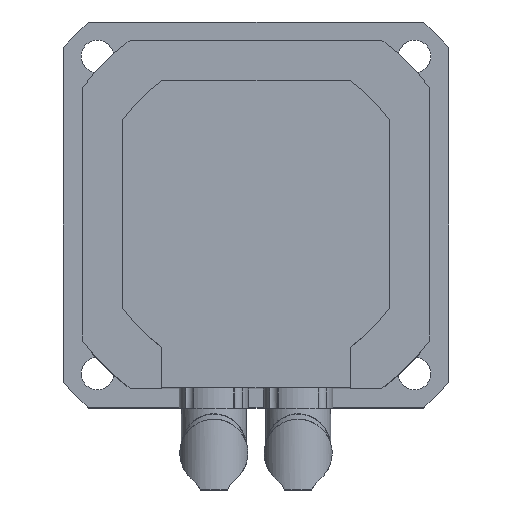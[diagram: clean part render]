
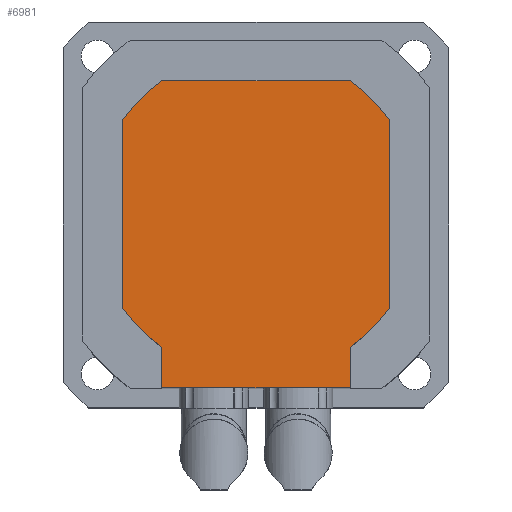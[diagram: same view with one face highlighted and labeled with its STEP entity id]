
A CAD part, top view. The second image highlights one B-rep face of the part: STEP entity #6981.
In plain terms, the highlighted planar face has unit normal (0, 0, 1).
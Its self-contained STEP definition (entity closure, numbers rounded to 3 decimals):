
#3962=CARTESIAN_POINT('',(-49.,-34.627,45.0));
#3963=VERTEX_POINT('',#3962);
#3970=CARTESIAN_POINT('',(-49.,34.627,45.0));
#3971=VERTEX_POINT('',#3970);
#3972=CARTESIAN_POINT('',(-49.,34.627,45.0));
#3973=DIRECTION('',(0.0,-1.0,0.0));
#3974=VECTOR('',#3973,69.253);
#3975=LINE('',#3972,#3974);
#3976=EDGE_CURVE('',#3971,#3963,#3975,.T.);
#4020=CARTESIAN_POINT('',(49.0,34.627,45.0));
#4021=VERTEX_POINT('',#4020);
#4028=CARTESIAN_POINT('',(49.0,-34.627,45.0));
#4029=VERTEX_POINT('',#4028);
#4030=CARTESIAN_POINT('',(49.0,-34.627,45.0));
#4031=DIRECTION('',(0.0,1.0,0.0));
#4032=VECTOR('',#4031,69.253);
#4033=LINE('',#4030,#4032);
#4034=EDGE_CURVE('',#4029,#4021,#4033,.T.);
#6490=CARTESIAN_POINT('',(-34.627,49.0,45.0));
#6491=VERTEX_POINT('',#6490);
#6498=CARTESIAN_POINT('',(34.627,49.0,45.0));
#6499=VERTEX_POINT('',#6498);
#6500=CARTESIAN_POINT('',(34.627,49.0,45.0));
#6501=DIRECTION('',(-1.0,0.0,0.0));
#6502=VECTOR('',#6501,69.253);
#6503=LINE('',#6500,#6502);
#6504=EDGE_CURVE('',#6499,#6491,#6503,.T.);
#6522=CARTESIAN_POINT('',(34.627,-49.0,45.0));
#6523=VERTEX_POINT('',#6522);
#6524=CARTESIAN_POINT('',(0.0,0.0,45.0));
#6525=DIRECTION('',(0.0,0.0,-1.0));
#6526=DIRECTION('',(-1.0,0.0,0.0));
#6527=AXIS2_PLACEMENT_3D('',#6524,#6525,#6526);
#6528=CIRCLE('',#6527,60.0);
#6529=EDGE_CURVE('',#4029,#6523,#6528,.T.);
#6547=CARTESIAN_POINT('',(0.0,0.0,45.0));
#6548=DIRECTION('',(0.0,0.0,-1.0));
#6549=DIRECTION('',(-1.0,0.0,0.0));
#6550=AXIS2_PLACEMENT_3D('',#6547,#6548,#6549);
#6551=CIRCLE('',#6550,60.0);
#6552=EDGE_CURVE('',#6499,#4021,#6551,.T.);
#6565=CARTESIAN_POINT('',(0.0,0.0,45.0));
#6566=DIRECTION('',(0.0,0.0,-1.0));
#6567=DIRECTION('',(-1.0,0.0,0.0));
#6568=AXIS2_PLACEMENT_3D('',#6565,#6566,#6567);
#6569=CIRCLE('',#6568,60.0);
#6570=EDGE_CURVE('',#3971,#6491,#6569,.T.);
#6584=CARTESIAN_POINT('',(-34.627,-49.0,45.0));
#6585=VERTEX_POINT('',#6584);
#6592=CARTESIAN_POINT('',(0.0,0.0,45.0));
#6593=DIRECTION('',(0.0,0.0,-1.0));
#6594=DIRECTION('',(-1.0,0.0,0.0));
#6595=AXIS2_PLACEMENT_3D('',#6592,#6593,#6594);
#6596=CIRCLE('',#6595,60.0);
#6597=EDGE_CURVE('',#6585,#3963,#6596,.T.);
#6641=CARTESIAN_POINT('',(34.627,-64.0,45.0));
#6642=VERTEX_POINT('',#6641);
#6643=CARTESIAN_POINT('',(34.627,-49.0,45.0));
#6644=DIRECTION('',(0.0,-1.0,0.0));
#6645=VECTOR('',#6644,15.0);
#6646=LINE('',#6643,#6645);
#6647=EDGE_CURVE('',#6523,#6642,#6646,.T.);
#6666=CARTESIAN_POINT('',(-34.627,-64.0,45.0));
#6667=VERTEX_POINT('',#6666);
#6674=CARTESIAN_POINT('',(-34.627,-49.0,45.0));
#6675=DIRECTION('',(0.0,-1.0,0.0));
#6676=VECTOR('',#6675,15.0);
#6677=LINE('',#6674,#6676);
#6678=EDGE_CURVE('',#6585,#6667,#6677,.T.);
#6944=CARTESIAN_POINT('',(34.627,-64.0,45.0));
#6945=DIRECTION('',(-1.0,0.0,0.0));
#6946=VECTOR('',#6945,69.253);
#6947=LINE('',#6944,#6946);
#6948=EDGE_CURVE('',#6642,#6667,#6947,.T.);
#6964=CARTESIAN_POINT('',(49.,-64.,45.0));
#6965=DIRECTION('',(0.0,0.0,-1.0));
#6966=DIRECTION('',(-1.0,0.0,0.0));
#6967=AXIS2_PLACEMENT_3D('',#6964,#6965,#6966);
#6968=PLANE('',#6967);
#6969=ORIENTED_EDGE('',*,*,#3976,.T.);
#6970=ORIENTED_EDGE('',*,*,#6597,.F.);
#6971=ORIENTED_EDGE('',*,*,#6678,.T.);
#6972=ORIENTED_EDGE('',*,*,#6948,.F.);
#6973=ORIENTED_EDGE('',*,*,#6647,.F.);
#6974=ORIENTED_EDGE('',*,*,#6529,.F.);
#6975=ORIENTED_EDGE('',*,*,#4034,.T.);
#6976=ORIENTED_EDGE('',*,*,#6552,.F.);
#6977=ORIENTED_EDGE('',*,*,#6504,.T.);
#6978=ORIENTED_EDGE('',*,*,#6570,.F.);
#6979=EDGE_LOOP('',(#6969,#6970,#6971,#6972,#6973,#6974,#6975,#6976,#6977,#6978));
#6980=FACE_OUTER_BOUND('',#6979,.T.);
#6981=ADVANCED_FACE('',(#6980),#6968,.F.);
